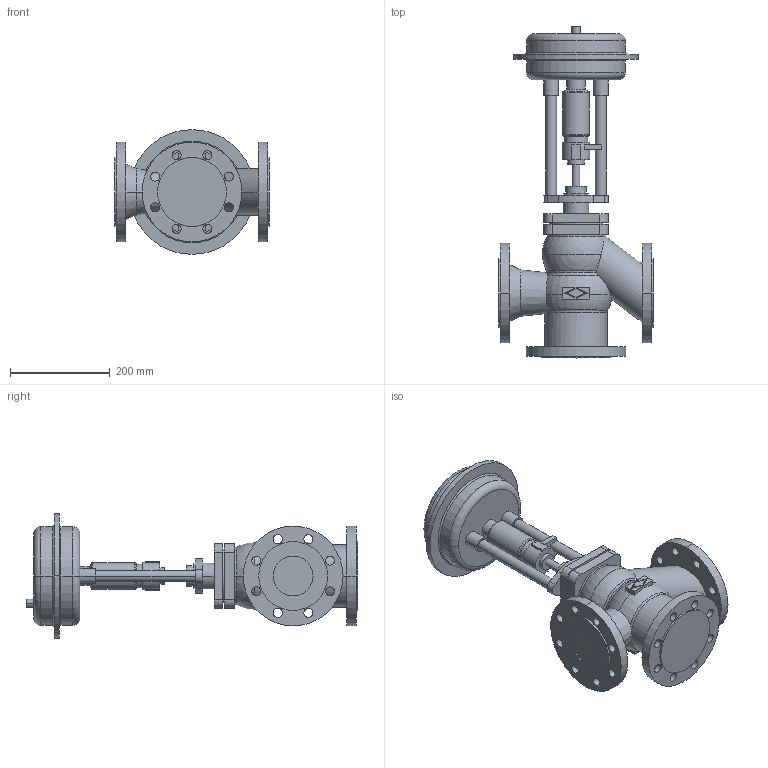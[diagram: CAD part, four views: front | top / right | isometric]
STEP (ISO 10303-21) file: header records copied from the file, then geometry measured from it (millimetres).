
FILE_DESCRIPTION(('OneSpaceDesigner STEP Export'),'2;1');
FILE_NAME('c000000408.stp','2006-09-13T12:33:36',(''),(''),'OneSpace Designer STEP processor for AP214 (Solid Model)','OneSpace Designer 13.20A 18-Aug-2005 (C) CoCreate Software GmbH','');
FILE_SCHEMA(('AUTOMOTIVE_DESIGN { 1 0 10303 214 1 1 1 1 }'));
Length unit declared in the file: millimetre
Products named in the file (2): 1; 2
Bounding box: 310 x 665.5 x 250 mm (x, y, z)
Volume: 10284260.6 mm3; surface area: 638322.3 mm2
Topology: 2 solids, 2 shells, 237 faces, 595 edges, 386 vertices
Faces by surface type: cylinder 118, plane 81, torus 26, cone 8, sphere 4
Entity records: 6450 total; most frequent: CARTESIAN_POINT 1264, ORIENTED_EDGE 1182, DIRECTION 926, EDGE_CURVE 591, VERTEX_POINT 386, AXIS2_PLACEMENT_3D 341, EDGE_LOOP 313, VECTOR 244
